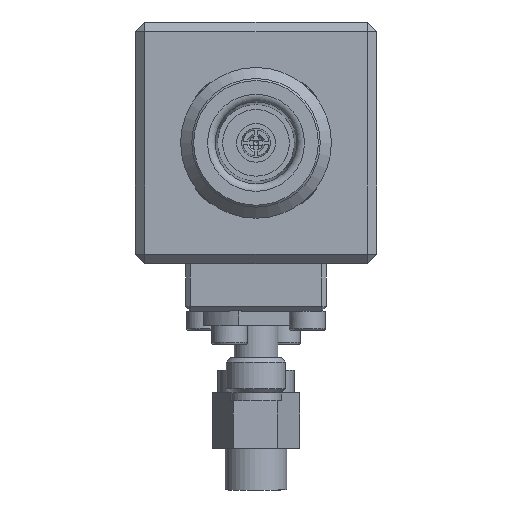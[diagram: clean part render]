
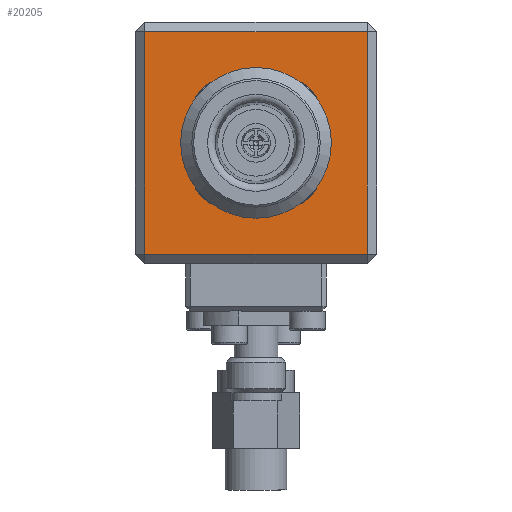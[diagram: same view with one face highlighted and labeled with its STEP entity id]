
A CAD part, front view. The second image highlights one B-rep face of the part: STEP entity #20205.
In plain terms, the highlighted planar face has unit normal (0, -1, 0).
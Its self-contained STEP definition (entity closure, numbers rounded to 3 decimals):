
#736=CIRCLE('',#21152,8.);
#737=CIRCLE('',#21153,8.);
#738=CIRCLE('',#21154,8.);
#739=CIRCLE('',#21155,8.);
#1163=ORIENTED_EDGE('',*,*,#5037,.T.);
#1164=ORIENTED_EDGE('',*,*,#5038,.T.);
#1165=ORIENTED_EDGE('',*,*,#5039,.T.);
#1166=ORIENTED_EDGE('',*,*,#5040,.T.);
#1167=ORIENTED_EDGE('',*,*,#5041,.F.);
#1168=ORIENTED_EDGE('',*,*,#5042,.F.);
#1169=ORIENTED_EDGE('',*,*,#5043,.T.);
#1170=ORIENTED_EDGE('',*,*,#5044,.F.);
#1171=ORIENTED_EDGE('',*,*,#5045,.T.);
#1172=ORIENTED_EDGE('',*,*,#5046,.F.);
#1173=ORIENTED_EDGE('',*,*,#5047,.F.);
#1174=ORIENTED_EDGE('',*,*,#5048,.F.);
#5037=EDGE_CURVE('',#6974,#6975,#8339,.T.);
#5038=EDGE_CURVE('',#6975,#6976,#8340,.T.);
#5039=EDGE_CURVE('',#6976,#6977,#8341,.T.);
#5040=EDGE_CURVE('',#6977,#6974,#8342,.T.);
#5041=EDGE_CURVE('',#6978,#6979,#8343,.T.);
#5042=EDGE_CURVE('',#6980,#6978,#736,.T.);
#5043=EDGE_CURVE('',#6980,#6981,#8344,.T.);
#5044=EDGE_CURVE('',#6982,#6981,#737,.T.);
#5045=EDGE_CURVE('',#6982,#6983,#8345,.T.);
#5046=EDGE_CURVE('',#6984,#6983,#738,.T.);
#5047=EDGE_CURVE('',#6985,#6984,#8346,.T.);
#5048=EDGE_CURVE('',#6979,#6985,#739,.T.);
#6974=VERTEX_POINT('',#26147);
#6975=VERTEX_POINT('',#26148);
#6976=VERTEX_POINT('',#26150);
#6977=VERTEX_POINT('',#26152);
#6978=VERTEX_POINT('',#26155);
#6979=VERTEX_POINT('',#26156);
#6980=VERTEX_POINT('',#26158);
#6981=VERTEX_POINT('',#26160);
#6982=VERTEX_POINT('',#26162);
#6983=VERTEX_POINT('',#26164);
#6984=VERTEX_POINT('',#26166);
#6985=VERTEX_POINT('',#26168);
#8339=LINE('',#26146,#9505);
#8340=LINE('',#26149,#9506);
#8341=LINE('',#26151,#9507);
#8342=LINE('',#26153,#9508);
#8343=LINE('',#26154,#9509);
#8344=LINE('',#26159,#9510);
#8345=LINE('',#26163,#9511);
#8346=LINE('',#26167,#9512);
#9505=VECTOR('',#22430,1000.);
#9506=VECTOR('',#22431,1000.);
#9507=VECTOR('',#22432,1000.);
#9508=VECTOR('',#22433,1000.);
#9509=VECTOR('',#22434,1000.);
#9510=VECTOR('',#22437,1000.);
#9511=VECTOR('',#22440,1000.);
#9512=VECTOR('',#22443,1000.);
#10671=EDGE_LOOP('',(#1163,#1164,#1165,#1166));
#10672=EDGE_LOOP('',(#1167,#1168,#1169,#1170,#1171,#1172,#1173,#1174));
#11905=FACE_BOUND('',#10671,.T.);
#11906=FACE_BOUND('',#10672,.T.);
#13161=PLANE('',#21151);
#20205=ADVANCED_FACE('',(#11905,#11906),#13161,.F.);
#21151=AXIS2_PLACEMENT_3D('',#26145,#22428,#22429);
#21152=AXIS2_PLACEMENT_3D('',#26157,#22435,#22436);
#21153=AXIS2_PLACEMENT_3D('',#26161,#22438,#22439);
#21154=AXIS2_PLACEMENT_3D('',#26165,#22441,#22442);
#21155=AXIS2_PLACEMENT_3D('',#26169,#22444,#22445);
#22428=DIRECTION('',(0.,1.,0.));
#22429=DIRECTION('',(0.,0.,1.));
#22430=DIRECTION('',(1.,0.,0.));
#22431=DIRECTION('',(0.,0.,1.));
#22432=DIRECTION('',(-1.,0.,0.));
#22433=DIRECTION('',(0.,0.,-1.));
#22434=DIRECTION('',(0.,0.,-1.));
#22435=DIRECTION('',(0.,-1.,0.));
#22436=DIRECTION('',(0.,0.,-1.));
#22437=DIRECTION('',(1.,0.,0.));
#22438=DIRECTION('',(0.,-1.,0.));
#22439=DIRECTION('',(0.,0.,-1.));
#22440=DIRECTION('',(0.,0.,-1.));
#22441=DIRECTION('',(0.,-1.,0.));
#22442=DIRECTION('',(0.,0.,-1.));
#22443=DIRECTION('',(1.,0.,0.));
#22444=DIRECTION('',(0.,-1.,0.));
#22445=DIRECTION('',(0.,0.,-1.));
#26145=CARTESIAN_POINT('',(12.7,0.,-12.7));
#26146=CARTESIAN_POINT('',(12.7,0.,-11.7));
#26147=CARTESIAN_POINT('',(-11.7,0.,-11.7));
#26148=CARTESIAN_POINT('',(11.7,0.,-11.7));
#26149=CARTESIAN_POINT('',(11.7,0.,-12.7));
#26150=CARTESIAN_POINT('',(11.7,0.,11.7));
#26151=CARTESIAN_POINT('',(12.7,0.,11.7));
#26152=CARTESIAN_POINT('',(-11.7,0.,11.7));
#26153=CARTESIAN_POINT('',(-11.7,0.,-12.7));
#26154=CARTESIAN_POINT('',(-6.35,0.,6.35));
#26155=CARTESIAN_POINT('',(-6.35,0.,4.866));
#26156=CARTESIAN_POINT('',(-6.35,0.,-4.866));
#26157=CARTESIAN_POINT('',(0.,0.,0.));
#26158=CARTESIAN_POINT('',(-4.866,0.,6.35));
#26159=CARTESIAN_POINT('',(-6.35,0.,6.35));
#26160=CARTESIAN_POINT('',(4.866,0.,6.35));
#26161=CARTESIAN_POINT('',(0.,0.,0.));
#26162=CARTESIAN_POINT('',(6.35,0.,4.866));
#26163=CARTESIAN_POINT('',(6.35,0.,6.35));
#26164=CARTESIAN_POINT('',(6.35,0.,-4.866));
#26165=CARTESIAN_POINT('',(0.,0.,0.));
#26166=CARTESIAN_POINT('',(4.866,0.,-6.35));
#26167=CARTESIAN_POINT('',(-6.35,0.,-6.35));
#26168=CARTESIAN_POINT('',(-4.866,0.,-6.35));
#26169=CARTESIAN_POINT('',(0.,0.,0.));
